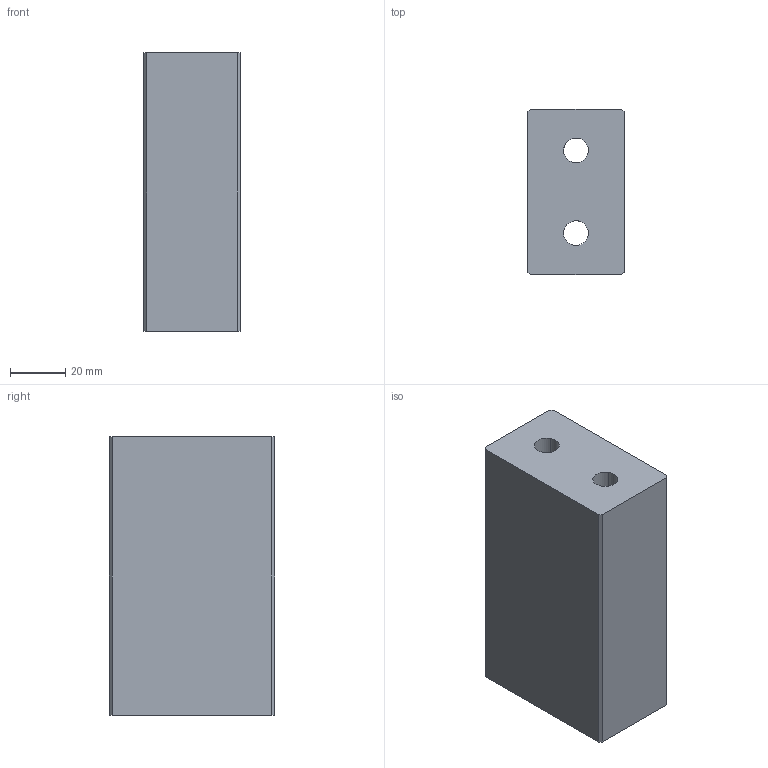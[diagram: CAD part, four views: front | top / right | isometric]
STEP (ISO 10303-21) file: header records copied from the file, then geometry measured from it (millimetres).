
FILE_DESCRIPTION(('CATIA V5 STEP Exchange','CAx-IF Rec.Pracs.--- Model Styling and Organization---1.5--- 2016-08-15','CAx-IF Rec.Pracs.---Supplemental Geometry---1.0---2011-11-01','CAx-IF Rec.Pracs.--- Composite Materials ---1.1---2010-07-15','CAx-IF Rec.Pracs.---External References---2.1---2005-01-19'),'2;1');
FILE_NAME('E:\WAT\Sprezarka\122_00_00_Tlocznik2\Tlocznik2_KPL\Tlocznik2_stp\122_01_03_Dystans.stp','2023-08-01T08:40:09+00:00',('none'),('none'),'CATIA Version 5-6 Release 2022 SP3','CATIA V5 STEP AP214 v2','none');
FILE_SCHEMA(('AUTOMOTIVE_DESIGN { 1 0 10303 214 1 1 1 1 }'));
Length unit declared in the file: millimetre
Products named in the file (1): 122_01_03_Dystans
Bounding box: 35 x 60 x 101 mm (x, y, z)
Volume: 180951.7 mm3; surface area: 31622.2 mm2
Topology: 1 solids, 1 shells, 20 faces, 48 edges, 32 vertices
Faces by surface type: plane 12, cylinder 8
Entity records: 611 total; most frequent: CARTESIAN_POINT 96, ORIENTED_EDGE 96, DIRECTION 78, EDGE_CURVE 48, AXIS2_PLACEMENT_3D 32, VECTOR 32, LINE 32, VERTEX_POINT 32
